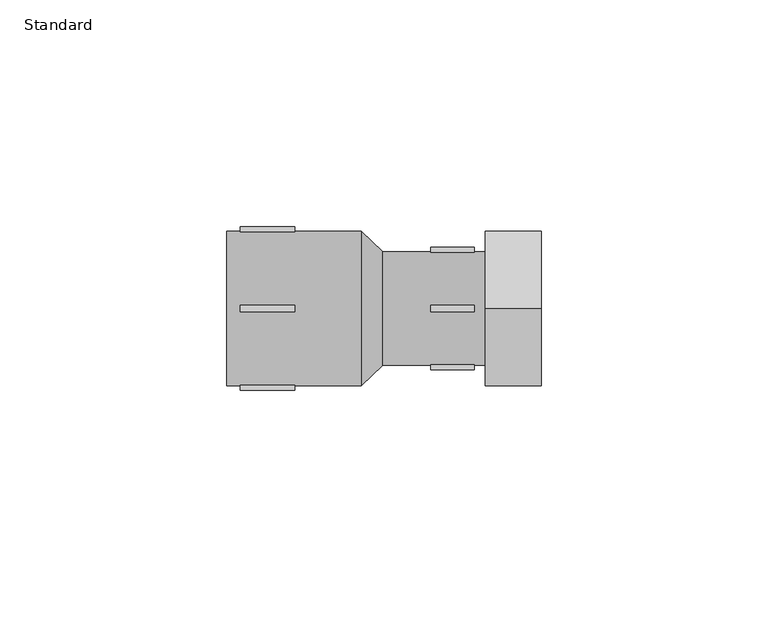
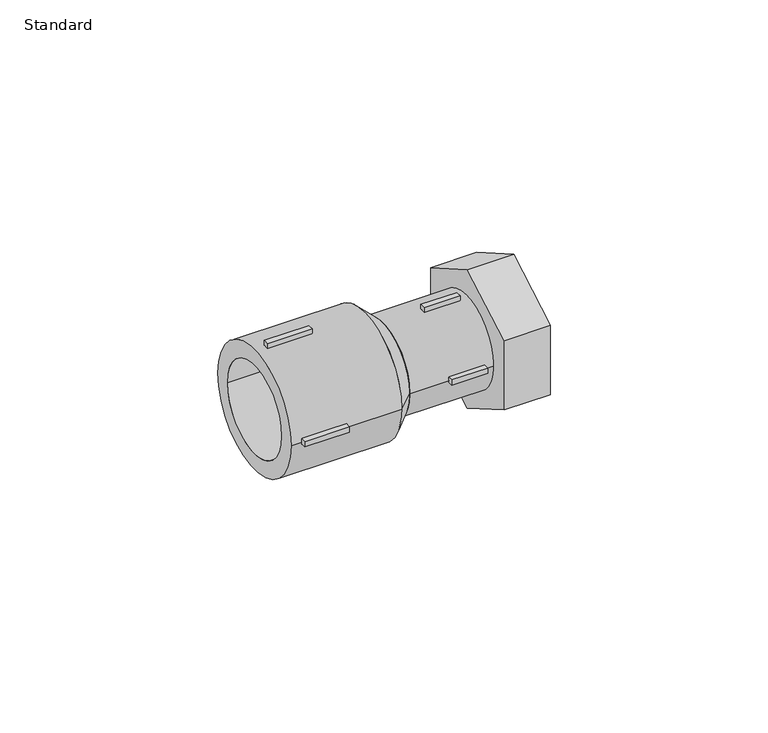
"""IFC4 building model written with IfcOpenShell, lengths in millimetres: pipe fitting geometry, EGB_VASEN_ PPR_Enlace tuerca loca : Standard."""

from ifc_helpers import new_model, si_unit, point, frame, origin, origin_2d, place, context, project, spatial, polyline, circle_curve, trimmed, segment, composite_curve, outline, extrude, source, transform, mapped, element, save
from ifc_brep_helpers import plane_surface, revolved_surface, advanced_brep


def standard_cf3f9ec1(model_context):
    return source(origin(), model_context, "Body", "SolidModel", [
        extrude(outline(polyline([(0.0, 19.6299092), (17.0, 9.8149546), (17.0, -9.8149546), (0.0, -19.6299092), (-17.0, -9.8149546), (-17.0, 9.8149546), (0.0, 19.6299092)]), holes=[composite_curve([segment(trimmed(circle_curve(origin_2d(), 9.525), [point((9.525, 0.0))], [point((-9.525, 0.0))], True, "CARTESIAN"), True, "CONTINUOUS"), segment(trimmed(circle_curve(origin_2d(), 9.525), [point((-9.525, 0.0))], [point((9.525, 0.0))], True, "CARTESIAN"), True, "CONTINUOUS")], self_intersect=False)]), frame((25.0, 0.0, 0.0), z_axis=(1.0, 0.0, 0.0), x_axis=(0.0, 1.0, 0.0)), (0.0, 0.0, 1.0), 12.3333333),
        extrude(outline(polyline([(13.0, -0.75), (13.0, 0.75), (22.6, 0.75), (22.6, -0.75), (13.0, -0.75)])), frame((0.0, 0.0, 11.5), z_axis=(0.0, 0.0, 1.0), x_axis=(1.0, 0.0, 0.0)), (0.0, 0.0, 1.0), 2.0),
        extrude(outline(polyline([(13.0, -0.75), (13.0, 0.75), (22.6, 0.75), (22.6, -0.75), (13.0, -0.75)])), frame((0.0, 0.0, -13.5), z_axis=(0.0, 0.0, 1.0), x_axis=(1.0, 0.0, 0.0)), (0.0, 0.0, 1.0), 2.0),
        extrude(outline(polyline([(13.0, 11.5), (13.0, 13.5), (22.6, 13.5), (22.6, 11.5), (13.0, 11.5)])), frame((0.0, 0.0, -0.75), z_axis=(0.0, 0.0, 1.0), x_axis=(1.0, 0.0, 0.0)), (0.0, 0.0, 1.0), 1.5),
        extrude(outline(polyline([(13.0, -13.5), (13.0, -11.5), (22.6, -11.5), (22.6, -13.5), (13.0, -13.5)])), frame((0.0, 0.0, -0.75), z_axis=(0.0, 0.0, 1.0), x_axis=(1.0, 0.0, 0.0)), (0.0, 0.0, 1.0), 1.5),
        extrude(outline(polyline([(-17.0, 0.75), (-17.0, -0.75), (-29.0, -0.75), (-29.0, 0.75), (-17.0, 0.75)])), frame((0.0, 0.0, 16.0), z_axis=(0.0, 0.0, 1.0), x_axis=(1.0, 0.0, 0.0)), (0.0, 0.0, 1.0), 2.0),
        extrude(outline(polyline([(-17.0, 0.75), (-17.0, -0.75), (-29.0, -0.75), (-29.0, 0.75), (-17.0, 0.75)])), frame((0.0, 0.0, -18.0), z_axis=(0.0, 0.0, 1.0), x_axis=(1.0, 0.0, 0.0)), (0.0, 0.0, 1.0), 2.0),
        extrude(outline(polyline([(-17.0, 18.0), (-17.0, 16.0), (-29.0, 16.0), (-29.0, 18.0), (-17.0, 18.0)])), frame((0.0, 0.0, -0.75), z_axis=(0.0, 0.0, 1.0), x_axis=(1.0, 0.0, 0.0)), (0.0, 0.0, 1.0), 1.5),
        extrude(outline(polyline([(-17.0, -16.0), (-17.0, -18.0), (-29.0, -18.0), (-29.0, -16.0), (-17.0, -16.0)])), frame((0.0, 0.0, -0.75), z_axis=(0.0, 0.0, 1.0), x_axis=(1.0, 0.0, 0.0)), (0.0, 0.0, 1.0), 1.5),
        extrude(outline(composite_curve([segment(trimmed(circle_curve(origin_2d(), 12.5), [point((-12.5, 0.0))], [point((12.5, 0.0))], False, "CARTESIAN"), True, "CONTINUOUS"), segment(trimmed(circle_curve(origin_2d(), 12.5), [point((12.5, 0.0))], [point((-12.5, 0.0))], False, "CARTESIAN"), True, "CONTINUOUS")], self_intersect=False), holes=[composite_curve([segment(trimmed(circle_curve(origin_2d(), 8.5), [point((-8.5, 0.0))], [point((8.5, 0.0))], True, "CARTESIAN"), True, "CONTINUOUS"), segment(trimmed(circle_curve(origin_2d(), 8.5), [point((8.5, 0.0))], [point((-8.5, 0.0))], True, "CARTESIAN"), True, "CONTINUOUS")], self_intersect=False)]), frame((2.4, 0.0, 0.0), z_axis=(1.0, 0.0, 0.0), x_axis=(0.0, 1.0, 0.0)), (0.0, 0.0, 1.0), 22.6),
        extrude(outline(composite_curve([segment(trimmed(circle_curve(origin_2d(), 17.0), [point((-17.0, 0.0))], [point((17.0, 0.0))], False, "CARTESIAN"), True, "CONTINUOUS"), segment(trimmed(circle_curve(origin_2d(), 17.0), [point((17.0, 0.0))], [point((-17.0, 0.0))], False, "CARTESIAN"), True, "CONTINUOUS")], self_intersect=False), holes=[composite_curve([segment(trimmed(circle_curve(origin_2d(), 12.5), [point((-12.5, 0.0))], [point((12.5, 0.0))], True, "CARTESIAN"), True, "CONTINUOUS"), segment(trimmed(circle_curve(origin_2d(), 12.5), [point((12.5, 0.0))], [point((-12.5, 0.0))], True, "CARTESIAN"), True, "CONTINUOUS")], self_intersect=False)]), frame((-32.0, 0.0, 0.0), z_axis=(1.0, 0.0, 0.0), x_axis=(0.0, 1.0, 0.0)), (0.0, 0.0, 1.0), 29.6),
        advanced_brep(
        [(2.4, -12.5, 0.0), (2.4, 12.5, 0.0), (-2.4, -17.0, 0.0), (-2.4, 17.0, 0.0)],
        [
            (0, 1, circle_curve(frame((2.4, 0.0, 0.0), z_axis=(1.0, 0.0, 0.0), x_axis=(0.0, -1.0, 0.0)), 12.5)),
            (1, 0, circle_curve(frame((2.4, 0.0, 0.0), z_axis=(1.0, 0.0, 0.0), x_axis=(0.0, 1.0, 0.0)), 12.5)),
            (2, 3, circle_curve(frame((-2.4, 0.0, 0.0), z_axis=(-1.0, 0.0, 0.0), x_axis=(0.0, 1.0, 0.0)), 17.0)),
            (3, 2, circle_curve(frame((-2.4, 0.0, 0.0), z_axis=(-1.0, 0.0, 0.0), x_axis=(0.0, -1.0, 0.0)), 17.0)),
            (3, 1),
            (0, 2),
        ],
        [
            plane_surface(frame((2.4, 0.0, 0.0), z_axis=(1.0, 0.0, 0.0), x_axis=(0.0, 0.0, -1.0))),
            plane_surface(frame((-2.4, 0.0, 0.0), z_axis=(-1.0, 0.0, 0.0), x_axis=(0.0, 0.0, -1.0))),
            revolved_surface(polyline([(2.4000000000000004, -12.499999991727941, 0.0), (-2.4000000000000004, -17.0, 0.0)]), (15.7333333, 0.0, 0.0), (-1.0, 0.0, 0.0)),
            revolved_surface(polyline([(2.4000000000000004, 12.499999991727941, 0.0), (-2.4000000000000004, 17.0, 0.0)]), (15.7333333, 0.0, 0.0), (-1.0, 0.0, 0.0)),
        ],
        [
            (0, [[1, 2]]),
            (1, [[3, 4]]),
            (2, [[-4, 5, -1, 6]]),
            (3, [[-3, -6, -2, -5]]),
        ],
    ),
    ])


if __name__ == "__main__":
    model = new_model("IFC4")
    model_context = context("Model", 3, world=origin())
    ifc_project = project(units=[si_unit("LENGTHUNIT", "METRE", prefix="MILLI")], contexts=[model_context])
    site = spatial("IfcSite", under=ifc_project)
    building = spatial("IfcBuilding", under=site)
    placement = place(None, origin())
    standard_shape = standard_cf3f9ec1(model_context)
    element("IfcPipeFitting", 1, ObjectType="EGB_VASEN_ PPR_Enlace tuerca loca : Standard", at=placement, inside=building, context=model_context, shape_type="MappedRepresentation", body=[
        mapped(standard_shape, transform((0.0, 0.0, 0.0), x_axis=(1.0, 0.0, 0.0), y_axis=(0.0, 1.0, 0.0), z_axis=(0.0, 0.0, 1.0))),
    ])
    save(model, "model.ifc")
